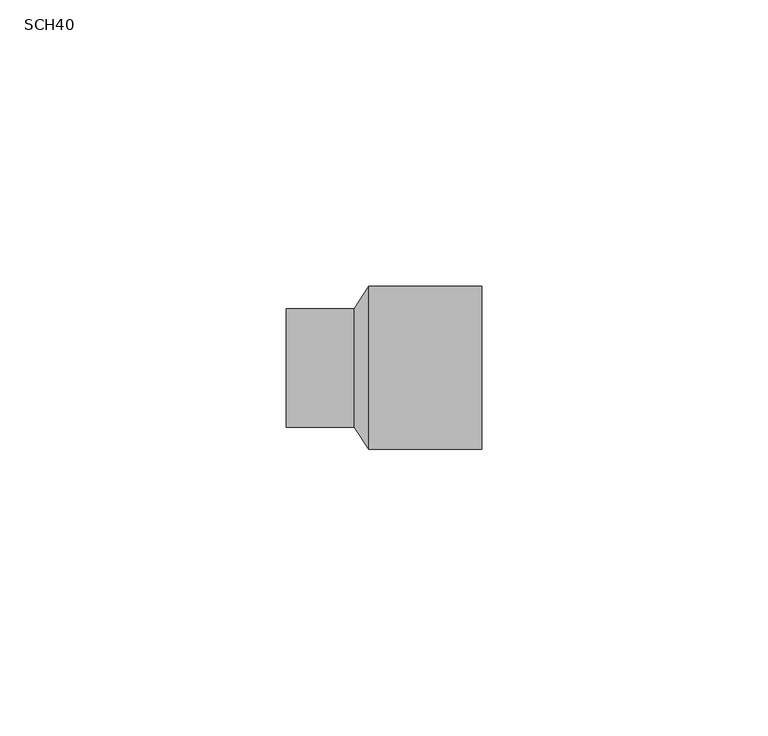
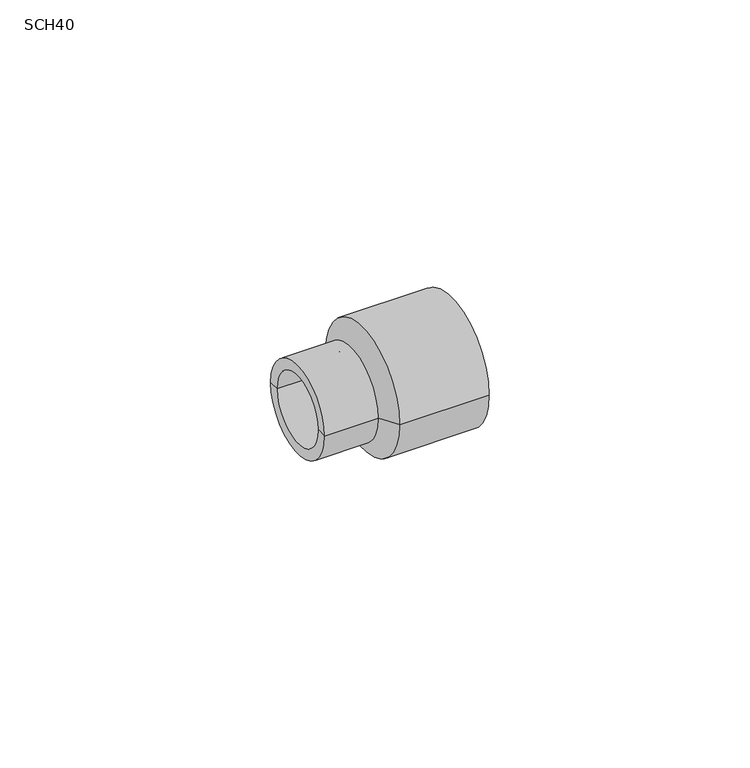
"""IFC4 building model written with IfcOpenShell, lengths in millimetres: pipe fitting geometry, PavcoWavin_UnionesDeTuberia_CpvcZNoUsarTransiciónMetal : SCH40."""

from ifc_helpers import new_model, si_unit, frame, origin, place, context, project, spatial, polyline, circle_curve, source, transform, mapped, element, save
from ifc_brep_helpers import plane_surface, cylinder_surface, revolved_surface, advanced_brep


def sch40_3f122158(model_context):
    return source(origin(), model_context, "Body", "AdvancedBrep", [
        advanced_brep(
        [(4.57, -10.385, 0.0), (4.57, 10.385, 0.0), (4.57, 6.7658723, 0.0), (4.57, -6.7658723, 0.0), (17.71, -10.385, 0.0), (17.71, 10.385, 0.0), (17.71, -14.265, 0.0), (17.71, 14.265, 0.0), (-2.03, -14.265, 0.0), (-2.03, 14.265, 0.0), (-4.57, -10.365, 0.0), (-4.57, 10.365, 0.0), (-16.47, -10.365, 0.0), (-16.47, 10.365, 0.0), (-16.47, -7.95, 0.0), (-16.47, 7.95, 0.0), (-4.57, -7.95, 0.0), (-4.57, 7.95, 0.0), (-4.57, -6.7658723, 0.0), (-4.57, 6.7658723, 0.0)],
        [
            (0, 1, circle_curve(frame((4.57, 0.0, 0.0), z_axis=(1.0, 0.0, 0.0), x_axis=(0.0, 1.0, 0.0)), 10.385)),
            (1, 2),
            (2, 3, circle_curve(frame((4.57, 0.0, 0.0), z_axis=(-1.0, 0.0, 0.0), x_axis=(0.0, 1.0, 0.0)), 6.7658723)),
            (3, 0),
            (1, 0, circle_curve(frame((4.57, 0.0, 0.0), z_axis=(1.0, 0.0, 0.0), x_axis=(0.0, 1.0, 0.0)), 10.385)),
            (3, 2, circle_curve(frame((4.57, 0.0, 0.0), z_axis=(-1.0, 0.0, 0.0), x_axis=(0.0, 1.0, 0.0)), 6.7658723)),
            (0, 4),
            (4, 5, circle_curve(frame((17.71, 0.0, 0.0), z_axis=(1.0, 0.0, 0.0), x_axis=(0.0, 1.0, 0.0)), 10.385)),
            (5, 1),
            (5, 4, circle_curve(frame((17.71, 0.0, 0.0), z_axis=(1.0, 0.0, 0.0), x_axis=(0.0, 1.0, 0.0)), 10.385)),
            (4, 6),
            (6, 7, circle_curve(frame((17.71, 0.0, 0.0), z_axis=(1.0, 0.0, 0.0), x_axis=(0.0, 1.0, 0.0)), 14.265)),
            (7, 5),
            (7, 6, circle_curve(frame((17.71, 0.0, 0.0), z_axis=(1.0, 0.0, 0.0), x_axis=(0.0, 1.0, 0.0)), 14.265)),
            (6, 8),
            (8, 9, circle_curve(frame((-2.03, 0.0, 0.0), z_axis=(1.0, 0.0, 0.0), x_axis=(0.0, 1.0, 0.0)), 14.265)),
            (9, 7),
            (9, 8, circle_curve(frame((-2.03, 0.0, 0.0), z_axis=(1.0, 0.0, 0.0), x_axis=(0.0, 1.0, 0.0)), 14.265)),
            (8, 10),
            (10, 11, circle_curve(frame((-4.57, 0.0, 0.0), z_axis=(1.0, 0.0, 0.0), x_axis=(0.0, 1.0, 0.0)), 10.365)),
            (11, 9),
            (11, 10, circle_curve(frame((-4.57, 0.0, 0.0), z_axis=(1.0, 0.0, 0.0), x_axis=(0.0, 1.0, 0.0)), 10.365)),
            (10, 12),
            (12, 13, circle_curve(frame((-16.47, 0.0, 0.0), z_axis=(1.0, 0.0, 0.0), x_axis=(0.0, 1.0, 0.0)), 10.365)),
            (13, 11),
            (13, 12, circle_curve(frame((-16.47, 0.0, 0.0), z_axis=(1.0, 0.0, 0.0), x_axis=(0.0, 1.0, 0.0)), 10.365)),
            (12, 14),
            (14, 15, circle_curve(frame((-16.47, 0.0, 0.0), z_axis=(1.0, 0.0, 0.0), x_axis=(0.0, 1.0, 0.0)), 7.95)),
            (15, 13),
            (15, 14, circle_curve(frame((-16.47, 0.0, 0.0), z_axis=(1.0, 0.0, 0.0), x_axis=(0.0, 1.0, 0.0)), 7.95)),
            (14, 16),
            (16, 17, circle_curve(frame((-4.57, 0.0, 0.0), z_axis=(1.0, 0.0, 0.0), x_axis=(0.0, 1.0, 0.0)), 7.95)),
            (17, 15),
            (17, 16, circle_curve(frame((-4.57, 0.0, 0.0), z_axis=(1.0, 0.0, 0.0), x_axis=(0.0, 1.0, 0.0)), 7.95)),
            (16, 18),
            (18, 19, circle_curve(frame((-4.57, 0.0, 0.0), z_axis=(1.0, 0.0, 0.0), x_axis=(0.0, 1.0, 0.0)), 6.7658723)),
            (19, 17),
            (19, 18, circle_curve(frame((-4.57, 0.0, 0.0), z_axis=(1.0, 0.0, 0.0), x_axis=(0.0, 1.0, 0.0)), 6.7658723)),
            (18, 3),
            (2, 19),
        ],
        [
            plane_surface(frame((4.57, 0.0, 0.0), z_axis=(1.0, 0.0, 0.0), x_axis=(0.0, 1.0, 0.0))),
            revolved_surface(polyline([(4.569999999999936, 10.385, 0.0), (17.710000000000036, 10.385, 0.0)]), (2000.505, 0.0, 0.0), (-1.0, 0.0, 0.0)),
            plane_surface(frame((17.71, 0.0, 0.0), z_axis=(1.0, 0.0, 0.0), x_axis=(0.0, 1.0, 0.0))),
            cylinder_surface(frame((2000.505, 0.0, 0.0), z_axis=(-1.0, 0.0, 0.0), x_axis=(0.0, 1.0, 0.0)), 14.265),
            revolved_surface(polyline([(-2.03, 14.265, 0.0), (-4.57, 10.365, 0.0)]), (2000.505, 0.0, 0.0), (-1.0, 0.0, 0.0)),
            cylinder_surface(frame((2000.505, 0.0, 0.0), z_axis=(-1.0, 0.0, 0.0), x_axis=(0.0, 1.0, 0.0)), 10.365),
            plane_surface(frame((-16.47, 0.0, 0.0), z_axis=(-1.0, 0.0, 0.0), x_axis=(0.0, 1.0, 0.0))),
            revolved_surface(polyline([(-16.470000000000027, 7.95, 0.0), (-4.569999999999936, 7.95, 0.0)]), (2000.505, 0.0, 0.0), (-1.0, 0.0, 0.0)),
            plane_surface(frame((-4.57, 0.0, 0.0), z_axis=(-1.0, 0.0, 0.0), x_axis=(0.0, 1.0, 0.0))),
            revolved_surface(polyline([(-4.569999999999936, 6.7658723, 0.0), (4.569999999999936, 6.7658723, 0.0)]), (2000.0, 0.0, 0.0), (-1.0, 0.0, 0.0)),
        ],
        [
            (0, [[1, 2, 3, 4]]),
            (0, [[5, -4, 6, -2]]),
            (1, [[-1, 7, 8, 9]]),
            (1, [[-5, -9, 10, -7]]),
            (2, [[-8, 11, 12, 13]]),
            (2, [[-10, -13, 14, -11]]),
            (3, [[-12, 15, 16, 17]]),
            (3, [[-14, -17, 18, -15]]),
            (4, [[-16, 19, 20, 21]]),
            (4, [[-18, -21, 22, -19]]),
            (5, [[-20, 23, 24, 25]]),
            (5, [[-22, -25, 26, -23]]),
            (6, [[-24, 27, 28, 29]]),
            (6, [[-26, -29, 30, -27]]),
            (7, [[-28, 31, 32, 33]]),
            (7, [[-30, -33, 34, -31]]),
            (8, [[-32, 35, 36, 37]]),
            (8, [[-34, -37, 38, -35]]),
            (9, [[39, -3, 40, -36]]),
            (9, [[-39, -38, -40, -6]]),
        ],
    ),
    ])


if __name__ == "__main__":
    model = new_model("IFC4")
    model_context = context("Model", 3, world=origin())
    ifc_project = project(units=[si_unit("LENGTHUNIT", "METRE", prefix="MILLI")], contexts=[model_context])
    site = spatial("IfcSite", under=ifc_project)
    building = spatial("IfcBuilding", under=site)
    placement = place(None, origin())
    sch40_shape = sch40_3f122158(model_context)
    element("IfcPipeFitting", 1, ObjectType="PavcoWavin_UnionesDeTuberia_CpvcZNoUsarTransiciónMetal : SCH40", at=placement, inside=building, context=model_context, shape_type="MappedRepresentation", body=[
        mapped(sch40_shape, transform((0.0, 0.0, 0.0), x_axis=(1.0, 0.0, 0.0), y_axis=(0.0, 1.0, 0.0), z_axis=(0.0, 0.0, 1.0))),
    ])
    save(model, "model.ifc")
